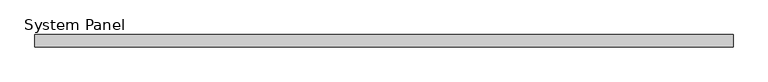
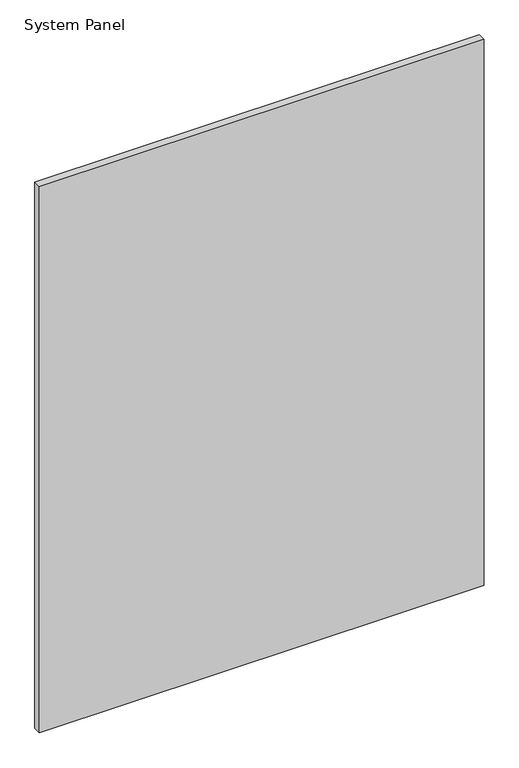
"""IFC4 building model written with IfcOpenShell, lengths in millimetres: plate geometry, System Panel : Panel_Glazed_Generic Showcase_30mm."""

import ifcopenshell
import ifcopenshell.guid

model = None  # the IFC model being written
_history = None  # IfcOwnerHistory: only IFC2X3 demands one
_inside = {}  # id of a spatial element -> (the spatial element, [elements in it])
_under = {}  # id of a project, library or spatial element -> (it, [spatial elements below it])
_declared = {}  # id of a project -> (the project, [libraries it declares])
_typed = {}  # id of a type object -> (the type object, [elements of that type])
_made_of = {}  # id of a material, layer set ... -> (it, [elements and type objects made of it])


def new_model(schema):
    """Start an empty IFC model of exactly this schema.

    Asked for "IFC4X3", IfcOpenShell would pick the latest addendum, in which some entities
    have other attributes; the version numbers below select the first issue.
    IFC2X3 requires an IfcOwnerHistory on every rooted entity: one is made here for all.
    """
    global model, _history
    if schema == "IFC4X3":
        model = ifcopenshell.file(schema_version=(4, 3, 0, 0))
    else:
        model = ifcopenshell.file(schema=schema)
    _inside.clear()
    _under.clear()
    _declared.clear()
    _typed.clear()
    _made_of.clear()
    _history = None
    if model.schema == "IFC2X3":
        org = make("IfcOrganization", Name="unknown")
        user = make(
            "IfcPersonAndOrganization",
            ThePerson=make("IfcPerson", FamilyName="unknown"),
            TheOrganization=org,
        )
        app = make(
            "IfcApplication",
            ApplicationDeveloper=org,
            Version="unknown",
            ApplicationFullName="unknown",
            ApplicationIdentifier="unknown",
        )
        _history = make(
            "IfcOwnerHistory",
            OwningUser=user,
            OwningApplication=app,
            ChangeAction="ADDED",
            CreationDate=0,
        )
    return model


def make(cls, **values):
    """One entity of the class cls with the attributes given. An attribute that is None is left unset."""
    return model.create_entity(
        cls, **{name: value for name, value in values.items() if value is not None}
    )


def rooted(cls, **values):
    """An entity with a GlobalId (a new one), such as an element, a storey or a relation."""
    return make(cls, GlobalId=ifcopenshell.guid.new(), OwnerHistory=_history, **values)


def si_unit(unit_type, name, prefix=None):
    """IfcSIUnit, for example si_unit("LENGTHUNIT", "METRE", prefix="MILLI")."""
    return make("IfcSIUnit", UnitType=unit_type, Prefix=prefix, Name=name)


def assignment(units):
    """IfcUnitAssignment: the units of a project."""
    return None if units is None else make("IfcUnitAssignment", Units=units)


def point(xyz):
    """IfcCartesianPoint."""
    return None if xyz is None else make("IfcCartesianPoint", Coordinates=xyz)


def direction(xyz):
    """IfcDirection."""
    return None if xyz is None else make("IfcDirection", DirectionRatios=xyz)


def frame(location, z_axis=None, x_axis=None):
    """IfcAxis2Placement3D, a coordinate frame: its origin and axes. An axis left out is left unset."""
    return make(
        "IfcAxis2Placement3D",
        Location=point(location),
        Axis=direction(z_axis),
        RefDirection=direction(x_axis),
    )


def origin():
    """The frame at (0, 0, 0) with its axes left unset."""
    return frame((0.0, 0.0, 0.0))


def origin_with_axes():
    """The frame at (0, 0, 0) with the z axis (0, 0, 1) and the x axis (1, 0, 0) written out."""
    return frame((0.0, 0.0, 0.0), z_axis=(0.0, 0.0, 1.0), x_axis=(1.0, 0.0, 0.0))


def place(relative_to, where):
    """IfcLocalPlacement: puts the frame where relative to a parent placement (None: the world)."""
    return make(
        "IfcLocalPlacement", PlacementRelTo=relative_to, RelativePlacement=where
    )


def context(
    kind, dimensions, precision=None, world=None, true_north=None, identifier=None
):
    """IfcGeometricRepresentationContext, for example the 3D "Model" context."""
    return make(
        "IfcGeometricRepresentationContext",
        ContextIdentifier=identifier,
        ContextType=kind,
        CoordinateSpaceDimension=dimensions,
        Precision=precision,
        WorldCoordinateSystem=world,
        TrueNorth=true_north,
    )


def project(units=None, contexts=None):
    """IfcProject with its units and contexts."""
    return rooted(
        "IfcProject",
        Name="project",
        RepresentationContexts=contexts,
        UnitsInContext=assignment(units),
    )


def spatial(cls, under=None, at=None, **own):
    """A site, building, storey or space (cls), placed at a placement, below another one or the project."""
    s = rooted(cls, ObjectPlacement=at, **own)
    if under is not None:
        _under.setdefault(under.id(), (under, []))[1].append(s)
    return s


def polyline(points):
    """IfcPolyline through the points."""
    return make("IfcPolyline", Points=[point(p) for p in points])


def outline(outer, holes=None, kind="AREA"):
    """IfcArbitraryClosedProfileDef: a profile drawn as a closed curve; with holes, ...WithVoids."""
    if holes is None:
        return make("IfcArbitraryClosedProfileDef", ProfileType=kind, OuterCurve=outer)
    return make(
        "IfcArbitraryProfileDefWithVoids",
        ProfileType=kind,
        OuterCurve=outer,
        InnerCurves=holes,
    )


def extrude(swept, where, along, depth):
    """IfcExtrudedAreaSolid: the profile swept, set in the frame where, extruded along a direction by depth."""
    return make(
        "IfcExtrudedAreaSolid",
        SweptArea=swept,
        Position=where,
        ExtrudedDirection=direction(along),
        Depth=depth,
    )


def shape(context_of_items, identifier, shape_type, items):
    """IfcShapeRepresentation: the items that make up one representation, for example the "Body"."""
    return make(
        "IfcShapeRepresentation",
        ContextOfItems=context_of_items,
        RepresentationIdentifier=identifier,
        RepresentationType=shape_type,
        Items=items,
    )


def source(mapping_origin, context_of_items, identifier, shape_type, items):
    """IfcRepresentationMap: a shape defined once, which mapped items show again and again."""
    return make(
        "IfcRepresentationMap",
        MappingOrigin=mapping_origin,
        MappedRepresentation=shape(context_of_items, identifier, shape_type, items),
    )


def transform(
    local_origin,
    x_axis=None,
    y_axis=None,
    z_axis=None,
    scale=None,
    scale2=None,
    scale3=None,
    uniform=True,
):
    """IfcCartesianTransformationOperator3D, or its non-uniform kind. x_axis, y_axis, z_axis: its Axis1, 2, 3."""
    if uniform:
        return make(
            "IfcCartesianTransformationOperator3D",
            Axis1=direction(x_axis),
            Axis2=direction(y_axis),
            LocalOrigin=point(local_origin),
            Scale=scale,
            Axis3=direction(z_axis),
        )
    return make(
        "IfcCartesianTransformationOperator3DnonUniform",
        Axis1=direction(x_axis),
        Axis2=direction(y_axis),
        LocalOrigin=point(local_origin),
        Scale=scale,
        Axis3=direction(z_axis),
        Scale2=scale2,
        Scale3=scale3,
    )


def mapped(mapping_source, mapping_target):
    """IfcMappedItem: shows the shape of a source again, moved by a transform."""
    return make(
        "IfcMappedItem", MappingSource=mapping_source, MappingTarget=mapping_target
    )


def made_of(thing, what):
    """Note that an element or type object is made of a material, layer set ...; save() writes the relation."""
    if what is not None:
        _made_of.setdefault(what.id(), (what, []))[1].append(thing)
    return thing


def element(
    cls,
    number,
    at=None,
    inside=None,
    cuts=None,
    type_object=None,
    material=None,
    context=None,
    identifier="Body",
    shape_type=None,
    held_by="IfcProductDefinitionShape",
    body=None,
    shapes=None,
    **own,
):
    """One element of the class cls, such as IfcWall. Its Tag is "e" and its number.

    at: its placement. inside: the storey or other place that contains it. cuts: it is an
    opening in that element (IfcRelVoidsElement). A single representation is given by context,
    identifier, shape_type and body (its items); several are given by shapes. held_by: the class
    of the entity that holds the representations. save() writes the other relations.
    """
    e = rooted(cls, Tag="e%d" % number, ObjectPlacement=at, **own)
    if body is not None:
        shapes = [shape(context, identifier, shape_type, body)]
    if shapes is not None:
        e.Representation = make(held_by, Representations=shapes)
    if inside is not None:
        _inside.setdefault(inside.id(), (inside, []))[1].append(e)
    if cuts is not None:
        rooted(
            "IfcRelVoidsElement", RelatingBuildingElement=cuts, RelatedOpeningElement=e
        )
    if type_object is not None:
        _typed.setdefault(type_object.id(), (type_object, []))[1].append(e)
    return made_of(e, material)


def aggregate(whole, parts):
    """IfcRelAggregates: a whole, such as a stair, and the parts it consists of."""
    return rooted("IfcRelAggregates", RelatingObject=whole, RelatedObjects=parts)


def save(model, path):
    """Write the relations noted so far, then the file.

    IfcRelAggregates (storeys below a building ...), IfcRelContainedInSpatialStructure (elements
    in a storey), IfcRelDefinesByType, IfcRelAssociatesMaterial and IfcRelDeclares: one each for
    every whole, place, type object, material and project.
    """
    for whole, parts in _under.values():
        aggregate(whole, parts)
    for where, things in _inside.values():
        rooted(
            "IfcRelContainedInSpatialStructure",
            RelatedElements=things,
            RelatingStructure=where,
        )
    for kind, things in _typed.values():
        rooted("IfcRelDefinesByType", RelatedObjects=things, RelatingType=kind)
    for what, things in _made_of.values():
        rooted("IfcRelAssociatesMaterial", RelatedObjects=things, RelatingMaterial=what)
    for by, libraries in _declared.values():
        rooted("IfcRelDeclares", RelatingContext=by, RelatedDefinitions=libraries)
    model.write(path)


def system_panel_7be301ce(model_context):
    return source(origin(), model_context, "Body", "SweptSolid", [
        extrude(outline(polyline([(847.226735, -30.0), (-847.226735, -30.0), (-847.226735, 0.0), (847.226735, 0.0), (847.226735, -30.0)])), origin_with_axes(), (0.0, 0.0, 1.0), 2200.0),
    ])


if __name__ == "__main__":
    model = new_model("IFC4")
    model_context = context("Model", 3, world=origin())
    ifc_project = project(units=[si_unit("LENGTHUNIT", "METRE", prefix="MILLI")], contexts=[model_context])
    site = spatial("IfcSite", under=ifc_project)
    building = spatial("IfcBuilding", under=site)
    placement = place(None, origin())
    system_panel_shape = system_panel_7be301ce(model_context)
    element("IfcPlate", 1, ObjectType="System Panel : Panel_Glazed_Generic Showcase_30mm", at=placement, inside=building, context=model_context, shape_type="MappedRepresentation", body=[
        mapped(system_panel_shape, transform((0.0, 0.0, 0.0), x_axis=(1.0, 0.0, 0.0), y_axis=(0.0, 1.0, 0.0), z_axis=(0.0, 0.0, 1.0))),
    ])
    save(model, "model.ifc")
